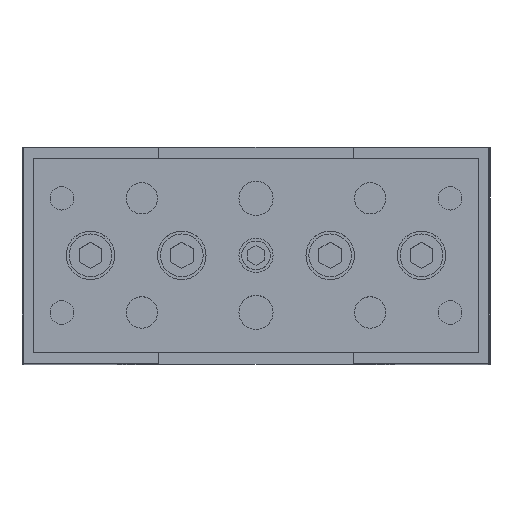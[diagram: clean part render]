
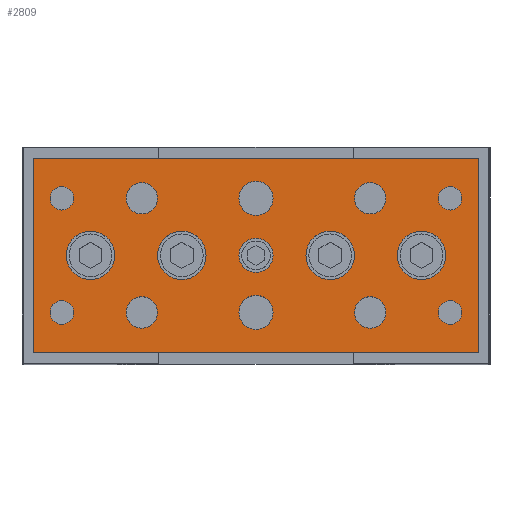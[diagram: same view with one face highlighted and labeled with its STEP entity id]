
A CAD part, top view. The second image highlights one B-rep face of the part: STEP entity #2809.
In plain terms, the highlighted planar face has unit normal (0, 0, 1).
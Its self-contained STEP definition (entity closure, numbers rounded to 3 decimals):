
#770=CARTESIAN_POINT('',(22.75,-10.0,551.0));
#771=VERTEX_POINT('',#770);
#772=CARTESIAN_POINT('',(20.,-10.0,551.0));
#773=DIRECTION('',(0.0,0.0,-1.0));
#774=DIRECTION('',(-1.0,0.0,0.0));
#775=AXIS2_PLACEMENT_3D('',#772,#773,#774);
#776=CIRCLE('',#775,2.75);
#777=EDGE_CURVE('',#771,#771,#776,.T.);
#880=CARTESIAN_POINT('',(-17.25,-10.0,551.0));
#881=VERTEX_POINT('',#880);
#882=CARTESIAN_POINT('',(-20.,-10.0,551.0));
#883=DIRECTION('',(0.0,0.0,-1.0));
#884=DIRECTION('',(-1.0,0.0,0.0));
#885=AXIS2_PLACEMENT_3D('',#882,#883,#884);
#886=CIRCLE('',#885,2.75);
#887=EDGE_CURVE('',#881,#881,#886,.T.);
#990=CARTESIAN_POINT('',(22.75,10.0,551.0));
#991=VERTEX_POINT('',#990);
#992=CARTESIAN_POINT('',(20.,10.0,551.0));
#993=DIRECTION('',(0.0,0.0,-1.0));
#994=DIRECTION('',(-1.0,0.0,0.0));
#995=AXIS2_PLACEMENT_3D('',#992,#993,#994);
#996=CIRCLE('',#995,2.75);
#997=EDGE_CURVE('',#991,#991,#996,.T.);
#1100=CARTESIAN_POINT('',(-17.25,10.0,551.0));
#1101=VERTEX_POINT('',#1100);
#1102=CARTESIAN_POINT('',(-20.,10.0,551.0));
#1103=DIRECTION('',(0.0,0.0,-1.0));
#1104=DIRECTION('',(-1.0,0.0,0.0));
#1105=AXIS2_PLACEMENT_3D('',#1102,#1103,#1104);
#1106=CIRCLE('',#1105,2.75);
#1107=EDGE_CURVE('',#1101,#1101,#1106,.T.);
#1131=CARTESIAN_POINT('',(3.,-10.0,551.0));
#1132=VERTEX_POINT('',#1131);
#1133=CARTESIAN_POINT('',(0.,-10.0,551.0));
#1134=DIRECTION('',(0.0,0.0,-1.0));
#1135=DIRECTION('',(-1.0,0.0,0.0));
#1136=AXIS2_PLACEMENT_3D('',#1133,#1134,#1135);
#1137=CIRCLE('',#1136,3.);
#1138=EDGE_CURVE('',#1132,#1132,#1137,.T.);
#1168=CARTESIAN_POINT('',(3.,10.0,551.0));
#1169=VERTEX_POINT('',#1168);
#1170=CARTESIAN_POINT('',(0.,10.0,551.0));
#1171=DIRECTION('',(0.0,0.0,-1.0));
#1172=DIRECTION('',(-1.0,0.0,0.0));
#1173=AXIS2_PLACEMENT_3D('',#1170,#1171,#1172);
#1174=CIRCLE('',#1173,3.);
#1175=EDGE_CURVE('',#1169,#1169,#1174,.T.);
#1226=CARTESIAN_POINT('',(-31.933,10.0,551.0));
#1227=VERTEX_POINT('',#1226);
#1228=CARTESIAN_POINT('',(-34.,10.0,551.0));
#1229=DIRECTION('',(0.0,0.0,-1.0));
#1230=DIRECTION('',(1.0,0.0,0.0));
#1231=AXIS2_PLACEMENT_3D('',#1228,#1229,#1230);
#1232=CIRCLE('',#1231,2.067);
#1233=EDGE_CURVE('',#1227,#1227,#1232,.T.);
#1275=CARTESIAN_POINT('',(36.067,10.0,551.0));
#1276=VERTEX_POINT('',#1275);
#1277=CARTESIAN_POINT('',(34.,10.0,551.0));
#1278=DIRECTION('',(0.0,0.0,-1.0));
#1279=DIRECTION('',(1.0,0.0,0.0));
#1280=AXIS2_PLACEMENT_3D('',#1277,#1278,#1279);
#1281=CIRCLE('',#1280,2.067);
#1282=EDGE_CURVE('',#1276,#1276,#1281,.T.);
#1324=CARTESIAN_POINT('',(-31.933,-10.0,551.0));
#1325=VERTEX_POINT('',#1324);
#1326=CARTESIAN_POINT('',(-34.,-10.0,551.0));
#1327=DIRECTION('',(0.0,0.0,-1.0));
#1328=DIRECTION('',(1.0,0.0,0.0));
#1329=AXIS2_PLACEMENT_3D('',#1326,#1327,#1328);
#1330=CIRCLE('',#1329,2.067);
#1331=EDGE_CURVE('',#1325,#1325,#1330,.T.);
#1373=CARTESIAN_POINT('',(36.067,-10.0,551.0));
#1374=VERTEX_POINT('',#1373);
#1375=CARTESIAN_POINT('',(34.,-10.0,551.0));
#1376=DIRECTION('',(0.0,0.0,-1.0));
#1377=DIRECTION('',(1.0,0.0,0.0));
#1378=AXIS2_PLACEMENT_3D('',#1375,#1376,#1377);
#1379=CIRCLE('',#1378,2.067);
#1380=EDGE_CURVE('',#1374,#1374,#1379,.T.);
#2029=CARTESIAN_POINT('',(3.,0.,551.0));
#2030=VERTEX_POINT('',#2029);
#2031=CARTESIAN_POINT('',(0.,0.0,551.0));
#2032=DIRECTION('',(0.0,0.0,-1.0));
#2033=DIRECTION('',(-1.0,0.0,0.0));
#2034=AXIS2_PLACEMENT_3D('',#2031,#2032,#2033);
#2035=CIRCLE('',#2034,3.);
#2036=EDGE_CURVE('',#2030,#2030,#2035,.T.);
#2097=CARTESIAN_POINT('',(17.25,0.,551.0));
#2098=VERTEX_POINT('',#2097);
#2099=CARTESIAN_POINT('',(13.,0.0,551.0));
#2100=DIRECTION('',(0.0,0.0,-1.0));
#2101=DIRECTION('',(-1.0,0.0,0.0));
#2102=AXIS2_PLACEMENT_3D('',#2099,#2100,#2101);
#2103=CIRCLE('',#2102,4.25);
#2104=EDGE_CURVE('',#2098,#2098,#2103,.T.);
#2165=CARTESIAN_POINT('',(-8.75,0.,551.0));
#2166=VERTEX_POINT('',#2165);
#2167=CARTESIAN_POINT('',(-13.,0.0,551.0));
#2168=DIRECTION('',(0.0,0.0,-1.0));
#2169=DIRECTION('',(-1.0,0.0,0.0));
#2170=AXIS2_PLACEMENT_3D('',#2167,#2168,#2169);
#2171=CIRCLE('',#2170,4.25);
#2172=EDGE_CURVE('',#2166,#2166,#2171,.T.);
#2233=CARTESIAN_POINT('',(33.25,0.,551.0));
#2234=VERTEX_POINT('',#2233);
#2235=CARTESIAN_POINT('',(29.,0.0,551.0));
#2236=DIRECTION('',(0.0,0.0,-1.0));
#2237=DIRECTION('',(-1.0,0.0,0.0));
#2238=AXIS2_PLACEMENT_3D('',#2235,#2236,#2237);
#2239=CIRCLE('',#2238,4.25);
#2240=EDGE_CURVE('',#2234,#2234,#2239,.T.);
#2301=CARTESIAN_POINT('',(-24.75,0.,551.0));
#2302=VERTEX_POINT('',#2301);
#2303=CARTESIAN_POINT('',(-29.,0.0,551.0));
#2304=DIRECTION('',(0.0,0.0,-1.0));
#2305=DIRECTION('',(-1.0,0.0,0.0));
#2306=AXIS2_PLACEMENT_3D('',#2303,#2304,#2305);
#2307=CIRCLE('',#2306,4.25);
#2308=EDGE_CURVE('',#2302,#2302,#2307,.T.);
#2725=CARTESIAN_POINT('',(39.,0.0,551.0));
#2726=DIRECTION('',(0.0,0.0,1.0));
#2727=DIRECTION('',(1.0,0.0,0.0));
#2728=AXIS2_PLACEMENT_3D('',#2725,#2726,#2727);
#2729=PLANE('',#2728);
#2730=CARTESIAN_POINT('',(39.,17.0,551.0));
#2731=VERTEX_POINT('',#2730);
#2732=CARTESIAN_POINT('',(-39.,17.0,551.0));
#2733=VERTEX_POINT('',#2732);
#2734=CARTESIAN_POINT('',(39.,17.0,551.0));
#2735=DIRECTION('',(-1.0,0.0,0.0));
#2736=VECTOR('',#2735,78.);
#2737=LINE('',#2734,#2736);
#2738=EDGE_CURVE('',#2731,#2733,#2737,.T.);
#2739=ORIENTED_EDGE('',*,*,#2738,.T.);
#2740=CARTESIAN_POINT('',(-39.,-17.0,551.0));
#2741=VERTEX_POINT('',#2740);
#2742=CARTESIAN_POINT('',(-39.,17.0,551.0));
#2743=DIRECTION('',(0.0,-1.0,0.0));
#2744=VECTOR('',#2743,34.0);
#2745=LINE('',#2742,#2744);
#2746=EDGE_CURVE('',#2733,#2741,#2745,.T.);
#2747=ORIENTED_EDGE('',*,*,#2746,.T.);
#2748=CARTESIAN_POINT('',(39.,-17.0,551.0));
#2749=VERTEX_POINT('',#2748);
#2750=CARTESIAN_POINT('',(-39.,-17.0,551.0));
#2751=DIRECTION('',(1.0,0.0,0.0));
#2752=VECTOR('',#2751,78.);
#2753=LINE('',#2750,#2752);
#2754=EDGE_CURVE('',#2741,#2749,#2753,.T.);
#2755=ORIENTED_EDGE('',*,*,#2754,.T.);
#2756=CARTESIAN_POINT('',(39.,-17.0,551.0));
#2757=DIRECTION('',(0.0,1.0,0.0));
#2758=VECTOR('',#2757,34.0);
#2759=LINE('',#2756,#2758);
#2760=EDGE_CURVE('',#2749,#2731,#2759,.T.);
#2761=ORIENTED_EDGE('',*,*,#2760,.T.);
#2762=EDGE_LOOP('',(#2739,#2747,#2755,#2761));
#2763=FACE_OUTER_BOUND('',#2762,.T.);
#2764=ORIENTED_EDGE('',*,*,#777,.T.);
#2765=EDGE_LOOP('',(#2764));
#2766=FACE_BOUND('',#2765,.T.);
#2767=ORIENTED_EDGE('',*,*,#887,.T.);
#2768=EDGE_LOOP('',(#2767));
#2769=FACE_BOUND('',#2768,.T.);
#2770=ORIENTED_EDGE('',*,*,#997,.T.);
#2771=EDGE_LOOP('',(#2770));
#2772=FACE_BOUND('',#2771,.T.);
#2773=ORIENTED_EDGE('',*,*,#1107,.T.);
#2774=EDGE_LOOP('',(#2773));
#2775=FACE_BOUND('',#2774,.T.);
#2776=ORIENTED_EDGE('',*,*,#1138,.T.);
#2777=EDGE_LOOP('',(#2776));
#2778=FACE_BOUND('',#2777,.T.);
#2779=ORIENTED_EDGE('',*,*,#1175,.T.);
#2780=EDGE_LOOP('',(#2779));
#2781=FACE_BOUND('',#2780,.T.);
#2782=ORIENTED_EDGE('',*,*,#1233,.T.);
#2783=EDGE_LOOP('',(#2782));
#2784=FACE_BOUND('',#2783,.T.);
#2785=ORIENTED_EDGE('',*,*,#1282,.T.);
#2786=EDGE_LOOP('',(#2785));
#2787=FACE_BOUND('',#2786,.T.);
#2788=ORIENTED_EDGE('',*,*,#1331,.T.);
#2789=EDGE_LOOP('',(#2788));
#2790=FACE_BOUND('',#2789,.T.);
#2791=ORIENTED_EDGE('',*,*,#1380,.T.);
#2792=EDGE_LOOP('',(#2791));
#2793=FACE_BOUND('',#2792,.T.);
#2794=ORIENTED_EDGE('',*,*,#2308,.T.);
#2795=EDGE_LOOP('',(#2794));
#2796=FACE_BOUND('',#2795,.T.);
#2797=ORIENTED_EDGE('',*,*,#2240,.T.);
#2798=EDGE_LOOP('',(#2797));
#2799=FACE_BOUND('',#2798,.T.);
#2800=ORIENTED_EDGE('',*,*,#2172,.T.);
#2801=EDGE_LOOP('',(#2800));
#2802=FACE_BOUND('',#2801,.T.);
#2803=ORIENTED_EDGE('',*,*,#2104,.T.);
#2804=EDGE_LOOP('',(#2803));
#2805=FACE_BOUND('',#2804,.T.);
#2806=ORIENTED_EDGE('',*,*,#2036,.T.);
#2807=EDGE_LOOP('',(#2806));
#2808=FACE_BOUND('',#2807,.T.);
#2809=ADVANCED_FACE('',(#2763,#2766,#2769,#2772,#2775,#2778,#2781,#2784,#2787,#2790,#2793,#2796,#2799,#2802,#2805,#2808),#2729,.T.);
